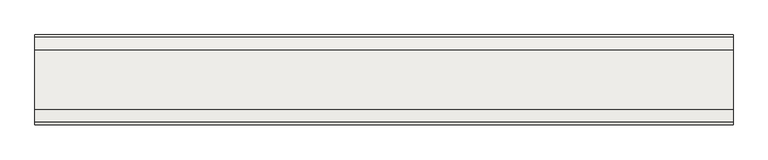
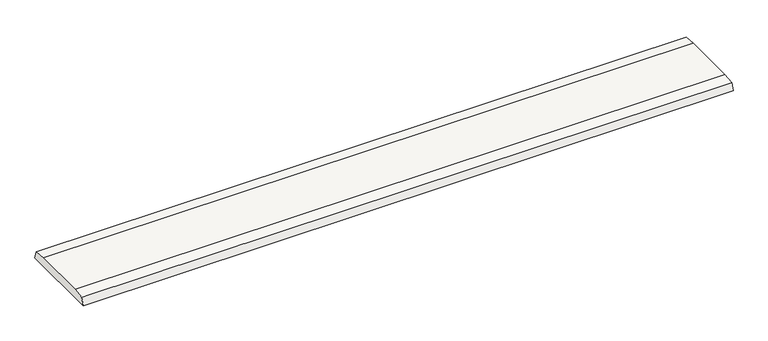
"""IFC4 building model written with IfcOpenShell, lengths in millimetres: slab geometry, ROSA GRES_245 CM_Colocación en plano : Rejilla 245 CM_Tao_Beige_Anti-Slip."""

from ifc_helpers import new_model, si_unit, point, frame, frame_2d, origin, place, context, project, spatial, polyline, circle_curve, trimmed, segment, composite_curve, outline, extrude, source, transform, mapped, element, save


def slab_a32e0d3d(model_context):
    return source(origin(), model_context, "Body", "SweptSolid", [
        extrude(outline(composite_curve([segment(trimmed(circle_curve(frame_2d((-163.0982439, -720.2412375)), 721.556477), [point((-242.0848264, -3.0209998))], [point((-206.6448784, 0.0))], False, "CARTESIAN"), True, "CONTINUOUS"), segment(polyline([(-206.6448784, 0.0), (-42.7380732, 0.0)]), True, "CONTINUOUS"), segment(trimmed(circle_curve(frame_2d((-86.2847076, -720.2412375)), 721.556477), [point((-42.7380732, 0.0))], [point((-6.8503894, -3.0704499))], False, "CARTESIAN"), True, "CONTINUOUS"), segment(polyline([(-6.8503894, -3.0704499), (0.0, -25.0413492), (-248.9615625, -25.0413492), (-242.0848264, -3.0209998)]), True, "CONTINUOUS")], self_intersect=False)), frame((0.0, 0.0, 0.0), z_axis=(1.0, 0.0, 0.0), x_axis=(0.0, 1.0, 0.0)), (0.0, 0.0, 1.0), 1930.0),
    ])


if __name__ == "__main__":
    model = new_model("IFC4")
    model_context = context("Model", 3, world=origin())
    ifc_project = project(units=[si_unit("LENGTHUNIT", "METRE", prefix="MILLI")], contexts=[model_context])
    site = spatial("IfcSite", under=ifc_project)
    building = spatial("IfcBuilding", under=site)
    placement = place(None, origin())
    slab_shape = slab_a32e0d3d(model_context)
    element("IfcSlab", 1, ObjectType="ROSA GRES_245 CM_Colocación en plano : Rejilla 245 CM_Tao_Beige_Anti-Slip", at=placement, inside=building, context=model_context, shape_type="MappedRepresentation", body=[
        mapped(slab_shape, transform((0.0, 0.0, 0.0), x_axis=(1.0, 0.0, 0.0), y_axis=(0.0, 1.0, 0.0), z_axis=(0.0, 0.0, 1.0))),
    ])
    save(model, "model.ifc")
